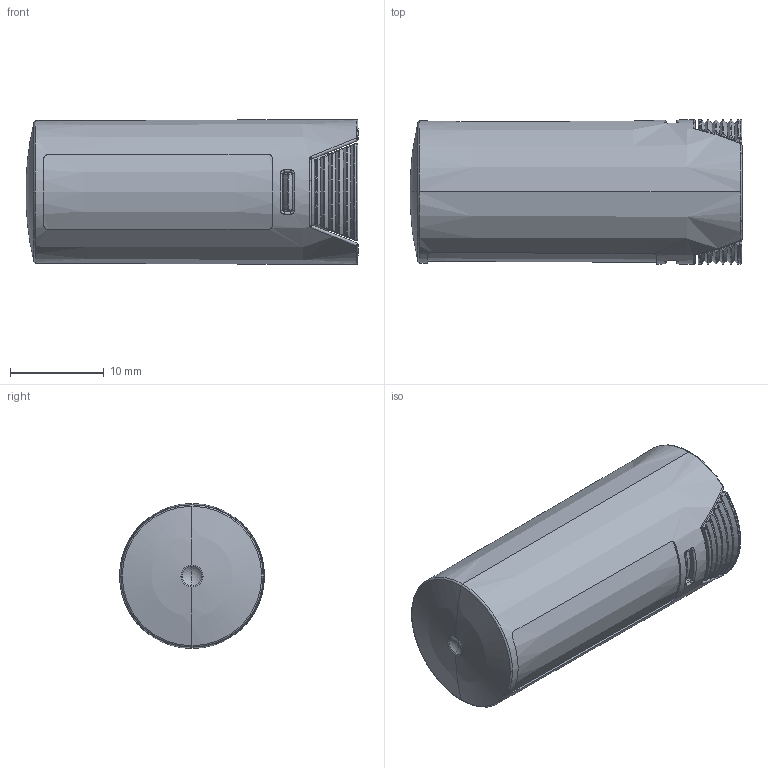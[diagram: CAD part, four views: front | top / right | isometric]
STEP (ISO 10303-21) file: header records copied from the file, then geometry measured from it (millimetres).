
FILE_DESCRIPTION(('Creo Elements/Direct Modeling STEP Export'),'2;1');
FILE_NAME('H13-0017-CE901_OA-QM5-600.stp','2014-06-05T14:19:05',(''),(''),'Creo Elements/Direct Modeling STEP processor for AP214 (Solid Model)','Creo Elements/Direct Modeling 18.1B 29-Sep-2012 (C) Parametric Technology GmbH','');
FILE_SCHEMA(('AUTOMOTIVE_DESIGN { 1 0 10303 214 1 1 1 1 }'));
Length unit declared in the file: millimetre
Products named in the file (5): M5_ナット; M5_ネジ; OA-QM5-600_本体; OA-QM5-600_カバー; OA-QM5-600
Assembly tree (4 placements, depth 2):
  OA-QM5-600
    OA-QM5-600_カバー
    OA-QM5-600_本体
    M5_ネジ
    M5_ナット
Bounding box: 35.48 x 15.5 x 15.5 mm (x, y, z)
Volume: 3399.5 mm3; surface area: 5992 mm2
Topology: 4 solids, 4 shells, 514 faces, 1312 edges, 786 vertices
Faces by surface type: bspline 224, cylinder 93, plane 88, torus 48, cone 47, sphere 14
Entity records: 36344 total; most frequent: CARTESIAN_POINT 26416, ORIENTED_EDGE 2584, EDGE_CURVE 1292, DIRECTION 1266, VERTEX_POINT 786, B_SPLINE_CURVE_WITH_KNOTS 548, EDGE_LOOP 522, AXIS2_PLACEMENT_3D 514
